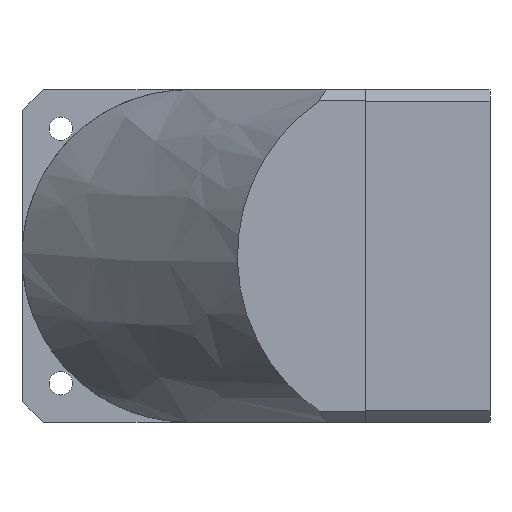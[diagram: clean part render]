
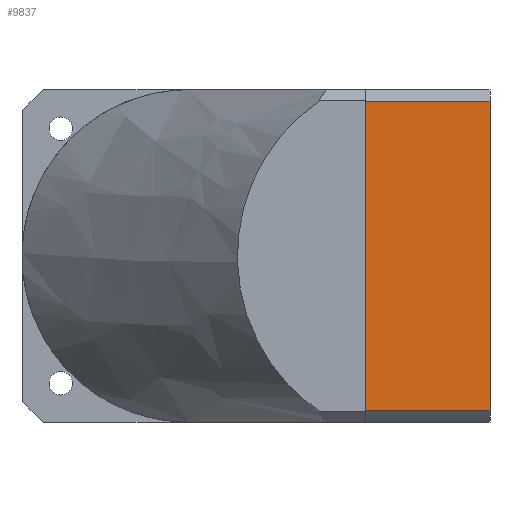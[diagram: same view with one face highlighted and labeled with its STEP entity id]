
A CAD part, front view. The second image highlights one B-rep face of the part: STEP entity #9837.
In plain terms, the highlighted planar face has unit normal (0, -1, 0).
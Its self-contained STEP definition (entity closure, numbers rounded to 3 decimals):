
#33 = CARTESIAN_POINT ( 'NONE',  ( 55.893, -60., -45. ) ) ;
#91 = CARTESIAN_POINT ( 'NONE',  ( -55.893, -60., 0. ) ) ;
#2245 = CARTESIAN_POINT ( 'NONE',  ( 55.893, -60., 0. ) ) ;
#2664 = LINE ( 'NONE', #23474, #11204 ) ;
#3424 = VERTEX_POINT ( 'NONE', #2245 ) ;
#3818 = VERTEX_POINT ( 'NONE', #7456 ) ;
#4337 = ORIENTED_EDGE ( 'NONE', *, *, #19405, .F. ) ;
#4952 = VERTEX_POINT ( 'NONE', #16007 ) ;
#5057 = DIRECTION ( 'NONE',  ( -1., 0., 0. ) ) ;
#6849 = LINE ( 'NONE', #23161, #12831 ) ;
#7456 = CARTESIAN_POINT ( 'NONE',  ( -55.893, -60., -45. ) ) ;
#7598 = DIRECTION ( 'NONE',  ( 1., 0., 0. ) ) ;
#8173 = DIRECTION ( 'NONE',  ( 0., 0., -1. ) ) ;
#9522 = EDGE_LOOP ( 'NONE', ( #4337, #11587, #16761, #14861 ) ) ;
#9837 = ADVANCED_FACE ( 'NONE', ( #14326 ), #15435, .T. ) ;
#10066 = EDGE_CURVE ( 'NONE', #3818, #20600, #2664, .T. ) ;
#10886 = LINE ( 'NONE', #12336, #14606 ) ;
#11204 = VECTOR ( 'NONE', #7598, 1000. ) ;
#11587 = ORIENTED_EDGE ( 'NONE', *, *, #10066, .T. ) ;
#12336 = CARTESIAN_POINT ( 'NONE',  ( 55.893, -60., -45. ) ) ;
#12549 = LINE ( 'NONE', #91, #13963 ) ;
#12831 = VECTOR ( 'NONE', #5057, 1000. ) ;
#13525 = CARTESIAN_POINT ( 'NONE',  ( -60., -60., -45. ) ) ;
#13963 = VECTOR ( 'NONE', #21838, 1000. ) ;
#14326 = FACE_OUTER_BOUND ( 'NONE', #9522, .T. ) ;
#14606 = VECTOR ( 'NONE', #19498, 1000. ) ;
#14861 = ORIENTED_EDGE ( 'NONE', *, *, #19723, .T. ) ;
#15435 = PLANE ( 'NONE',  #21423 ) ;
#15618 = EDGE_CURVE ( 'NONE', #20600, #3424, #10886, .T. ) ;
#16007 = CARTESIAN_POINT ( 'NONE',  ( -55.893, -60., 0. ) ) ;
#16761 = ORIENTED_EDGE ( 'NONE', *, *, #15618, .T. ) ;
#17267 = DIRECTION ( 'NONE',  ( 0., -1., 0. ) ) ;
#19405 = EDGE_CURVE ( 'NONE', #3818, #4952, #12549, .T. ) ;
#19498 = DIRECTION ( 'NONE',  ( 0., 0., 1. ) ) ;
#19723 = EDGE_CURVE ( 'NONE', #3424, #4952, #6849, .T. ) ;
#20600 = VERTEX_POINT ( 'NONE', #33 ) ;
#21423 = AXIS2_PLACEMENT_3D ( 'NONE', #13525, #17267, #8173 ) ;
#21838 = DIRECTION ( 'NONE',  ( 0., 0., 1. ) ) ;
#23161 = CARTESIAN_POINT ( 'NONE',  ( 0., -60., 0. ) ) ;
#23474 = CARTESIAN_POINT ( 'NONE',  ( -60., -60., -45. ) ) ;
